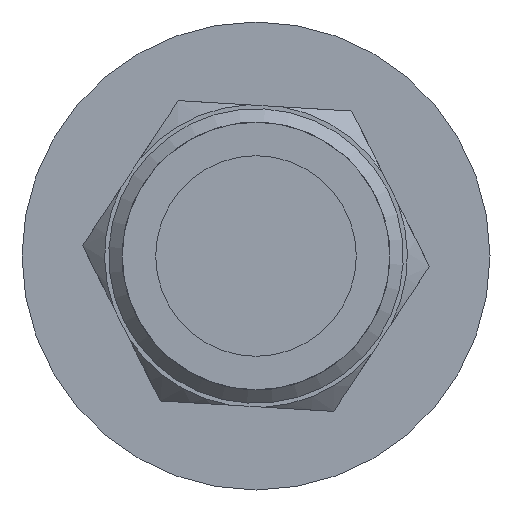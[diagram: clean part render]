
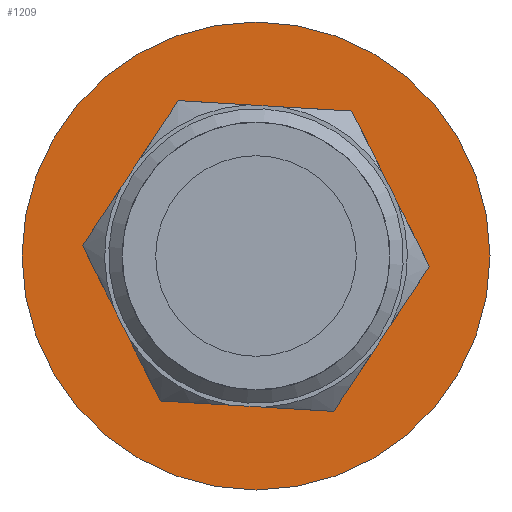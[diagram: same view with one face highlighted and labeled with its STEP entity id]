
A CAD part, front view. The second image highlights one B-rep face of the part: STEP entity #1209.
In plain terms, the highlighted planar face has unit normal (0, -1, 0).
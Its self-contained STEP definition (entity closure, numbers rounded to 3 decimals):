
#58 = DIRECTION ( 'NONE',  ( 0., 1., 0. ) ) ;
#90 = EDGE_LOOP ( 'NONE', ( #1873 ) ) ;
#249 = VERTEX_POINT ( 'NONE', #979 ) ;
#276 = DIRECTION ( 'NONE',  ( -1., 0., 0. ) ) ;
#419 = VERTEX_POINT ( 'NONE', #1725 ) ;
#480 = CARTESIAN_POINT ( 'NONE',  ( 0., 290., 0. ) ) ;
#578 = AXIS2_PLACEMENT_3D ( 'NONE', #1059, #1046, #607 ) ;
#607 = DIRECTION ( 'NONE',  ( -1., 0., 0. ) ) ;
#722 = FACE_OUTER_BOUND ( 'NONE', #723, .T. ) ;
#723 = EDGE_LOOP ( 'NONE', ( #1048 ) ) ;
#766 = AXIS2_PLACEMENT_3D ( 'NONE', #480, #851, #276 ) ;
#794 = AXIS2_PLACEMENT_3D ( 'NONE', #1398, #58, #960 ) ;
#851 = DIRECTION ( 'NONE',  ( 0., -1., 0. ) ) ;
#923 = EDGE_CURVE ( 'NONE', #419, #419, #1481, .T. ) ;
#940 = EDGE_CURVE ( 'NONE', #249, #249, #1297, .T. ) ;
#960 = DIRECTION ( 'NONE',  ( 0., 0., 1. ) ) ;
#979 = CARTESIAN_POINT ( 'NONE',  ( -8.5, 290., 0. ) ) ;
#1046 = DIRECTION ( 'NONE',  ( 0., 1., 0. ) ) ;
#1048 = ORIENTED_EDGE ( 'NONE', *, *, #923, .F. ) ;
#1059 = CARTESIAN_POINT ( 'NONE',  ( 15.55, 290., 0. ) ) ;
#1175 = PLANE ( 'NONE',  #578 ) ;
#1209 = ADVANCED_FACE ( 'NONE', ( #1626, #722 ), #1175, .F. ) ;
#1297 = CIRCLE ( 'NONE', #766, 8.5 ) ;
#1398 = CARTESIAN_POINT ( 'NONE',  ( 0., 290., 0. ) ) ;
#1481 = CIRCLE ( 'NONE', #794, 21. ) ;
#1626 = FACE_BOUND ( 'NONE', #90, .T. ) ;
#1725 = CARTESIAN_POINT ( 'NONE',  ( 0., 290., 21. ) ) ;
#1873 = ORIENTED_EDGE ( 'NONE', *, *, #940, .F. ) ;
